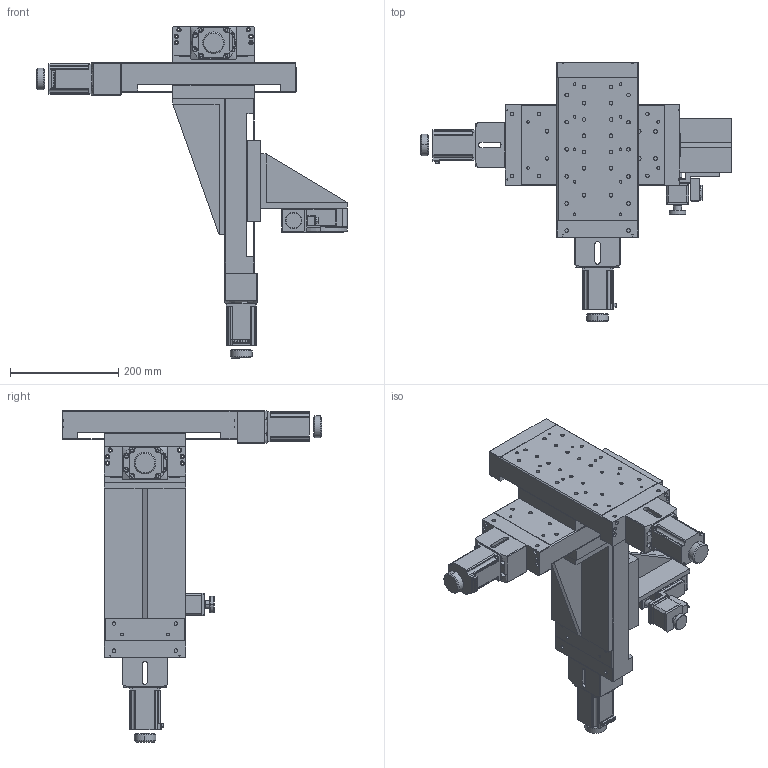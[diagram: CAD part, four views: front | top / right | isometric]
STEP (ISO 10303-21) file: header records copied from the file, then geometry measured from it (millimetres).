
FILE_DESCRIPTION (( 'STEP AP203' ), '1' );
FILE_NAME ('萇雄侐粣覃誹怢.STEP', '2020-01-14T01:49:36', ( 'SALES' ), ( 'Microsoft' ), 'SwSTEP 2.0', 'SolidWorks 2016', '' );
FILE_SCHEMA (( 'CONFIG_CONTROL_DESIGN' ));
Length unit declared in the file: millimetre
Products named in the file (1): 萇雄侐粣覃誹怢
Bounding box: 573.65 x 479.5 x 612.5 mm (x, y, z)
Surface area: 1175622.7 mm2 (no closed solid volume)
Topology: 0 solids, 57 shells, 1091 faces, 4061 edges, 2984 vertices
Faces by surface type: cylinder 584, plane 461, cone 38, bspline 6, torus 2
Entity records: 45568 total; most frequent: CARTESIAN_POINT 9455, DIRECTION 8078, ORIENTED_EDGE 6431, EDGE_CURVE 4061, AXIS2_PLACEMENT_3D 3035, VERTEX_POINT 2984, LINE 2008, VECTOR 2008
